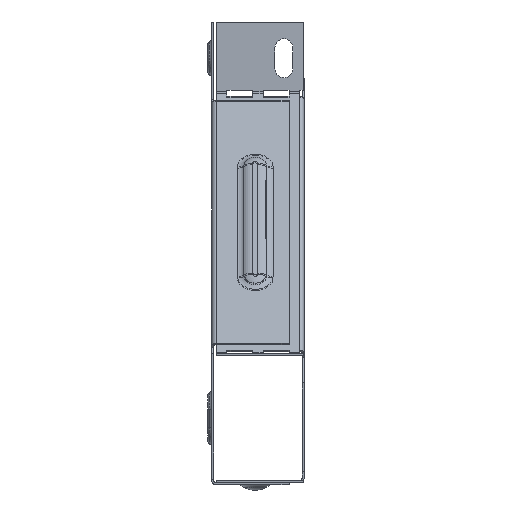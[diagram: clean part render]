
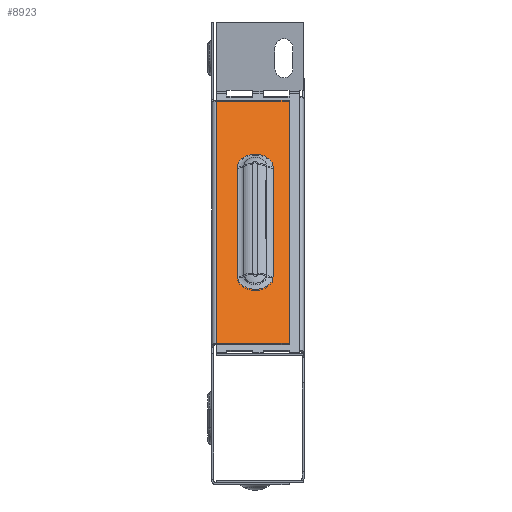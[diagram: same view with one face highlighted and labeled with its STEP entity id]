
A CAD part, left-side view. The second image highlights one B-rep face of the part: STEP entity #8923.
In plain terms, the highlighted planar face has unit normal (-0.707, 0, 0.707).
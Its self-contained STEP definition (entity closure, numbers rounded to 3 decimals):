
#150 = ORIENTED_EDGE ( 'NONE', *, *, #10619, .T. ) ;
#369 = CARTESIAN_POINT ( 'NONE',  ( -54.725, 25.817, 122.152 ) ) ;
#506 = LINE ( 'NONE', #6842, #14764 ) ;
#1395 = VERTEX_POINT ( 'NONE', #4769 ) ;
#1748 = CARTESIAN_POINT ( 'NONE',  ( -122.917, 5.8, 53.96 ) ) ;
#1939 = EDGE_CURVE ( 'NONE', #7778, #15504, #4000, .T. ) ;
#2278 = CARTESIAN_POINT ( 'NONE',  ( -54.725, 18.9, 122.152 ) ) ;
#2279 = CARTESIAN_POINT ( 'NONE',  ( -122.917, 34., 53.96 ) ) ;
#2378 = LINE ( 'NONE', #7620, #3884 ) ;
#2391 = ORIENTED_EDGE ( 'NONE', *, *, #12256, .T. ) ;
#3073 = ORIENTED_EDGE ( 'NONE', *, *, #1939, .F. ) ;
#3421 = DIRECTION ( 'NONE',  ( 0.707, 0., 0.707 ) ) ;
#3438 = VERTEX_POINT ( 'NONE', #8021 ) ;
#3479 = CARTESIAN_POINT ( 'NONE',  ( -28.96, 5.8, 147.917 ) ) ;
#3846 = DIRECTION ( 'NONE',  ( 0.707, 0., -0.707 ) ) ;
#3884 = VECTOR ( 'NONE', #17448, 1000. ) ;
#3891 = CARTESIAN_POINT ( 'NONE',  ( -97.152, 18.9, 79.725 ) ) ;
#3985 = EDGE_CURVE ( 'NONE', #5013, #16056, #13600, .T. ) ;
#4000 = LINE ( 'NONE', #16822, #8274 ) ;
#4022 = CARTESIAN_POINT ( 'NONE',  ( -97.152, 11.983, 79.725 ) ) ;
#4769 = CARTESIAN_POINT ( 'NONE',  ( -54.725, 11.983, 122.152 ) ) ;
#4775 = VECTOR ( 'NONE', #3421, 1000. ) ;
#4866 = ORIENTED_EDGE ( 'NONE', *, *, #3985, .T. ) ;
#5013 = VERTEX_POINT ( 'NONE', #11953 ) ;
#5246 = LINE ( 'NONE', #7637, #9755 ) ;
#6842 = CARTESIAN_POINT ( 'NONE',  ( -88.438, 5.8, 88.438 ) ) ;
#7620 = CARTESIAN_POINT ( 'NONE',  ( -28.96, 35.8, 147.917 ) ) ;
#7637 = CARTESIAN_POINT ( 'NONE',  ( -54.725, 11.983, 122.152 ) ) ;
#7778 = VERTEX_POINT ( 'NONE', #1748 ) ;
#7800 = ORIENTED_EDGE ( 'NONE', *, *, #15551, .T. ) ;
#7905 = DIRECTION ( 'NONE',  ( 0.707, 0., 0.707 ) ) ;
#7939 = DIRECTION ( 'NONE',  ( 0.707, 0., -0.707 ) ) ;
#8021 = CARTESIAN_POINT ( 'NONE',  ( -28.96, 34., 147.917 ) ) ;
#8274 = VECTOR ( 'NONE', #8511, 1000. ) ;
#8281 = VERTEX_POINT ( 'NONE', #4022 ) ;
#8486 = AXIS2_PLACEMENT_3D ( 'NONE', #2278, #3846, #15690 ) ;
#8511 = DIRECTION ( 'NONE',  ( 0., 1., 0. ) ) ;
#8923 = ADVANCED_FACE ( 'NONE', ( #13845, #14488 ), #14100, .F. ) ;
#9377 = CIRCLE ( 'NONE', #8486, 6.917 ) ;
#9755 = VECTOR ( 'NONE', #11860, 1000. ) ;
#9838 = EDGE_LOOP ( 'NONE', ( #4866, #2391, #15305, #150 ) ) ;
#10033 = EDGE_LOOP ( 'NONE', ( #3073, #7800, #10569, #10915 ) ) ;
#10442 = EDGE_CURVE ( 'NONE', #1395, #8281, #5246, .T. ) ;
#10569 = ORIENTED_EDGE ( 'NONE', *, *, #16595, .F. ) ;
#10619 = EDGE_CURVE ( 'NONE', #8281, #5013, #16922, .T. ) ;
#10915 = ORIENTED_EDGE ( 'NONE', *, *, #12113, .F. ) ;
#11225 = DIRECTION ( 'NONE',  ( 0.707, 0., 0.707 ) ) ;
#11860 = DIRECTION ( 'NONE',  ( -0.707, 0., -0.707 ) ) ;
#11953 = CARTESIAN_POINT ( 'NONE',  ( -97.152, 25.817, 79.725 ) ) ;
#12113 = EDGE_CURVE ( 'NONE', #15504, #3438, #17184, .T. ) ;
#12159 = VECTOR ( 'NONE', #11225, 1000. ) ;
#12256 = EDGE_CURVE ( 'NONE', #16056, #1395, #9377, .T. ) ;
#13522 = CARTESIAN_POINT ( 'NONE',  ( -54.725, 25.817, 122.152 ) ) ;
#13600 = LINE ( 'NONE', #369, #4775 ) ;
#13773 = AXIS2_PLACEMENT_3D ( 'NONE', #3891, #7939, #17663 ) ;
#13775 = AXIS2_PLACEMENT_3D ( 'NONE', #16785, #16899, #15507 ) ;
#13845 = FACE_BOUND ( 'NONE', #9838, .T. ) ;
#14100 = PLANE ( 'NONE',  #13775 ) ;
#14488 = FACE_OUTER_BOUND ( 'NONE', #10033, .T. ) ;
#14764 = VECTOR ( 'NONE', #7905, 1000. ) ;
#15305 = ORIENTED_EDGE ( 'NONE', *, *, #10442, .T. ) ;
#15504 = VERTEX_POINT ( 'NONE', #2279 ) ;
#15507 = DIRECTION ( 'NONE',  ( -0.707, 0., -0.707 ) ) ;
#15551 = EDGE_CURVE ( 'NONE', #7778, #17303, #506, .T. ) ;
#15690 = DIRECTION ( 'NONE',  ( -0.5, 0.707, -0.5 ) ) ;
#16056 = VERTEX_POINT ( 'NONE', #13522 ) ;
#16595 = EDGE_CURVE ( 'NONE', #3438, #17303, #2378, .T. ) ;
#16785 = CARTESIAN_POINT ( 'NONE',  ( -88.438, 35.8, 88.438 ) ) ;
#16822 = CARTESIAN_POINT ( 'NONE',  ( -122.917, 36.899, 53.96 ) ) ;
#16899 = DIRECTION ( 'NONE',  ( 0.707, 0., -0.707 ) ) ;
#16922 = CIRCLE ( 'NONE', #13773, 6.917 ) ;
#17050 = CARTESIAN_POINT ( 'NONE',  ( -26.838, 34., 150.038 ) ) ;
#17184 = LINE ( 'NONE', #17050, #12159 ) ;
#17303 = VERTEX_POINT ( 'NONE', #3479 ) ;
#17448 = DIRECTION ( 'NONE',  ( 0., -1., 0. ) ) ;
#17663 = DIRECTION ( 'NONE',  ( -0.5, 0.707, -0.5 ) ) ;
